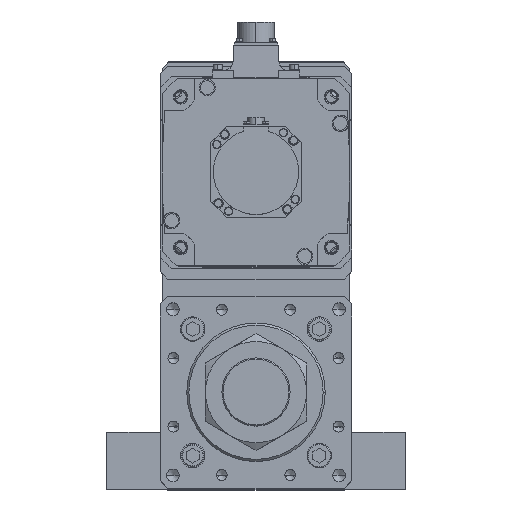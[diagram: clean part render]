
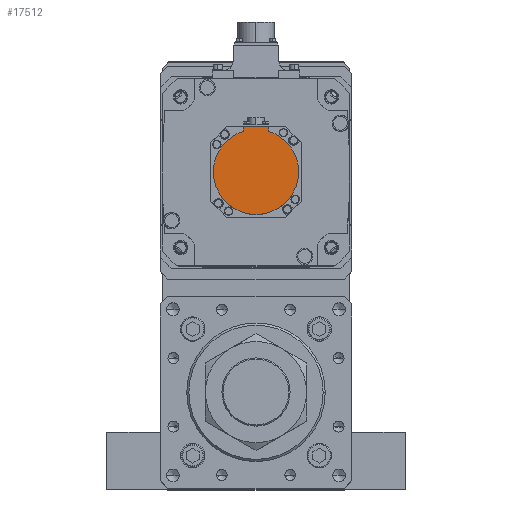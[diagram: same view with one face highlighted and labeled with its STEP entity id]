
A CAD part, top view. The second image highlights one B-rep face of the part: STEP entity #17512.
In plain terms, the highlighted planar face has unit normal (0, 0, 1) as drawn and (0, 0, -1) by its records, which use the part's own axes.
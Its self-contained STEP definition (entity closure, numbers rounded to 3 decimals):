
#465 = VERTEX_POINT ( 'NONE', #42878 ) ;
#1939 = PLANE ( 'NONE',  #8108 ) ;
#1951 = DIRECTION ( 'NONE',  ( 0., 0., 1. ) ) ;
#4242 = CIRCLE ( 'NONE', #42185, 40. ) ;
#4277 = VERTEX_POINT ( 'NONE', #8884 ) ;
#4498 = DIRECTION ( 'NONE',  ( 1., 0., 0. ) ) ;
#6105 = DIRECTION ( 'NONE',  ( 0., 0., 1. ) ) ;
#6220 = ORIENTED_EDGE ( 'NONE', *, *, #32725, .T. ) ;
#6546 = VECTOR ( 'NONE', #33066, 1000. ) ;
#7946 = DIRECTION ( 'NONE',  ( 0., 0., 1. ) ) ;
#8108 = AXIS2_PLACEMENT_3D ( 'NONE', #31013, #6105, #39487 ) ;
#8884 = CARTESIAN_POINT ( 'NONE',  ( -40., 0., -178.5 ) ) ;
#10865 = CARTESIAN_POINT ( 'NONE',  ( 12., -1.249, -178.5 ) ) ;
#11096 = EDGE_CURVE ( 'NONE', #28562, #19384, #22717, .T. ) ;
#12641 = DIRECTION ( 'NONE',  ( 1., 0., 0. ) ) ;
#13435 = VECTOR ( 'NONE', #44040, 1000. ) ;
#13518 = ORIENTED_EDGE ( 'NONE', *, *, #17691, .F. ) ;
#14279 = EDGE_LOOP ( 'NONE', ( #50900, #21062, #13518, #40191, #53337, #6220 ) ) ;
#14727 = AXIS2_PLACEMENT_3D ( 'NONE', #33321, #29187, #12641 ) ;
#17220 = EDGE_CURVE ( 'NONE', #38804, #465, #33842, .T. ) ;
#17512 = ADVANCED_FACE ( 'NONE', ( #34522 ), #1939, .F. ) ;
#17691 = EDGE_CURVE ( 'NONE', #465, #4277, #24760, .T. ) ;
#19186 = CARTESIAN_POINT ( 'NONE',  ( 12., -38.158, -178.5 ) ) ;
#19384 = VERTEX_POINT ( 'NONE', #22497 ) ;
#21062 = ORIENTED_EDGE ( 'NONE', *, *, #37097, .F. ) ;
#21623 = CARTESIAN_POINT ( 'NONE',  ( -12., -42.5, -178.5 ) ) ;
#22497 = CARTESIAN_POINT ( 'NONE',  ( -12., -38.158, -178.5 ) ) ;
#22717 = LINE ( 'NONE', #41598, #42771 ) ;
#24760 = CIRCLE ( 'NONE', #14727, 40. ) ;
#26435 = LINE ( 'NONE', #10865, #13435 ) ;
#27632 = AXIS2_PLACEMENT_3D ( 'NONE', #45484, #7946, #4498 ) ;
#28110 = EDGE_CURVE ( 'NONE', #39051, #38804, #26435, .T. ) ;
#28562 = VERTEX_POINT ( 'NONE', #21623 ) ;
#28738 = CARTESIAN_POINT ( 'NONE',  ( 0., -42.5, -178.5 ) ) ;
#29187 = DIRECTION ( 'NONE',  ( 0., 0., 1. ) ) ;
#29720 = CARTESIAN_POINT ( 'NONE',  ( 12., -42.5, -178.5 ) ) ;
#31013 = CARTESIAN_POINT ( 'NONE',  ( 0., -1.249, -178.5 ) ) ;
#32725 = EDGE_CURVE ( 'NONE', #39051, #28562, #35157, .T. ) ;
#33066 = DIRECTION ( 'NONE',  ( -1., 0., 0. ) ) ;
#33321 = CARTESIAN_POINT ( 'NONE',  ( 0., 0., -178.5 ) ) ;
#33842 = CIRCLE ( 'NONE', #27632, 40. ) ;
#34522 = FACE_OUTER_BOUND ( 'NONE', #14279, .T. ) ;
#35157 = LINE ( 'NONE', #28738, #6546 ) ;
#35858 = DIRECTION ( 'NONE',  ( 1., 0., 0. ) ) ;
#37097 = EDGE_CURVE ( 'NONE', #4277, #19384, #4242, .T. ) ;
#37252 = DIRECTION ( 'NONE',  ( 0., 1., 0. ) ) ;
#38804 = VERTEX_POINT ( 'NONE', #19186 ) ;
#39051 = VERTEX_POINT ( 'NONE', #29720 ) ;
#39487 = DIRECTION ( 'NONE',  ( 1., 0., 0. ) ) ;
#39839 = CARTESIAN_POINT ( 'NONE',  ( 0., 0., -178.5 ) ) ;
#40191 = ORIENTED_EDGE ( 'NONE', *, *, #17220, .F. ) ;
#41598 = CARTESIAN_POINT ( 'NONE',  ( -12., -40.329, -178.5 ) ) ;
#42185 = AXIS2_PLACEMENT_3D ( 'NONE', #39839, #1951, #35858 ) ;
#42771 = VECTOR ( 'NONE', #37252, 1000. ) ;
#42878 = CARTESIAN_POINT ( 'NONE',  ( 40., 0., -178.5 ) ) ;
#44040 = DIRECTION ( 'NONE',  ( 0., 1., 0. ) ) ;
#45484 = CARTESIAN_POINT ( 'NONE',  ( 0., 0., -178.5 ) ) ;
#50900 = ORIENTED_EDGE ( 'NONE', *, *, #11096, .T. ) ;
#53337 = ORIENTED_EDGE ( 'NONE', *, *, #28110, .F. ) ;
